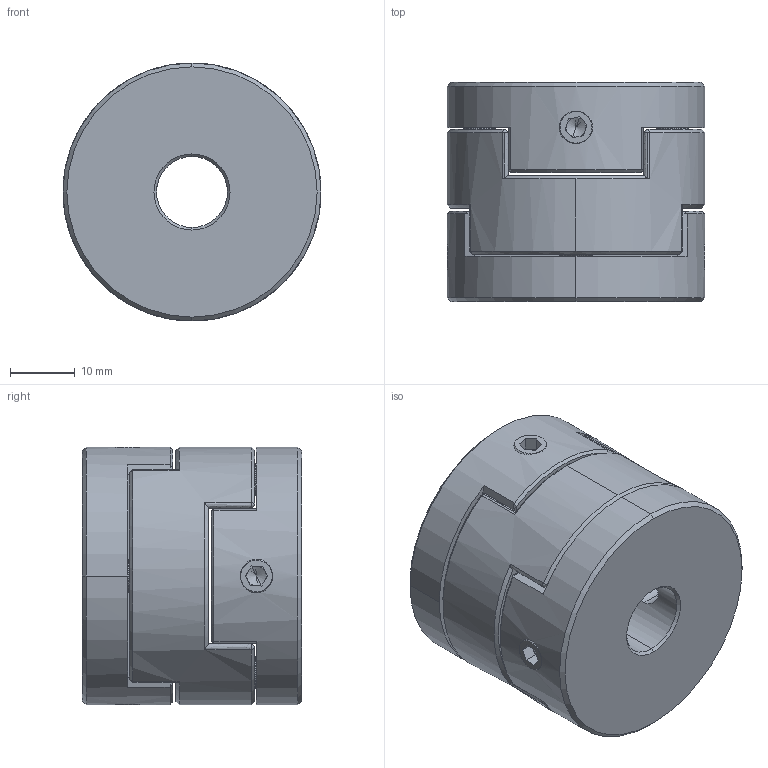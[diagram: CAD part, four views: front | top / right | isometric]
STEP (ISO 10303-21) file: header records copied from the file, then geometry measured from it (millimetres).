
FILE_DESCRIPTION (( 'STEP AP203' ), '1' );
FILE_NAME ('LZ-D-D40L35-11-19.STEP', '2021-10-30T05:12:53', ( '' ), ( '' ), 'SwSTEP 2.0', 'SolidWorks 2018', '' );
FILE_SCHEMA (( 'CONFIG_CONTROL_DESIGN' ));
Length unit declared in the file: millimetre
Products named in the file (1): LZ-D-D40L35-11-19
Bounding box: 40 x 34 x 40 mm (x, y, z)
Volume: 34132.8 mm3; surface area: 12352.9 mm2
Topology: 1 solids, 1 shells, 217 faces, 542 edges, 327 vertices
Faces by surface type: plane 88, bspline 55, cone 48, cylinder 26
Entity records: 7716 total; most frequent: CARTESIAN_POINT 2993, ORIENTED_EDGE 1068, DIRECTION 796, EDGE_CURVE 534, VERTEX_POINT 327, AXIS2_PLACEMENT_3D 289, EDGE_LOOP 243, VECTOR 218
